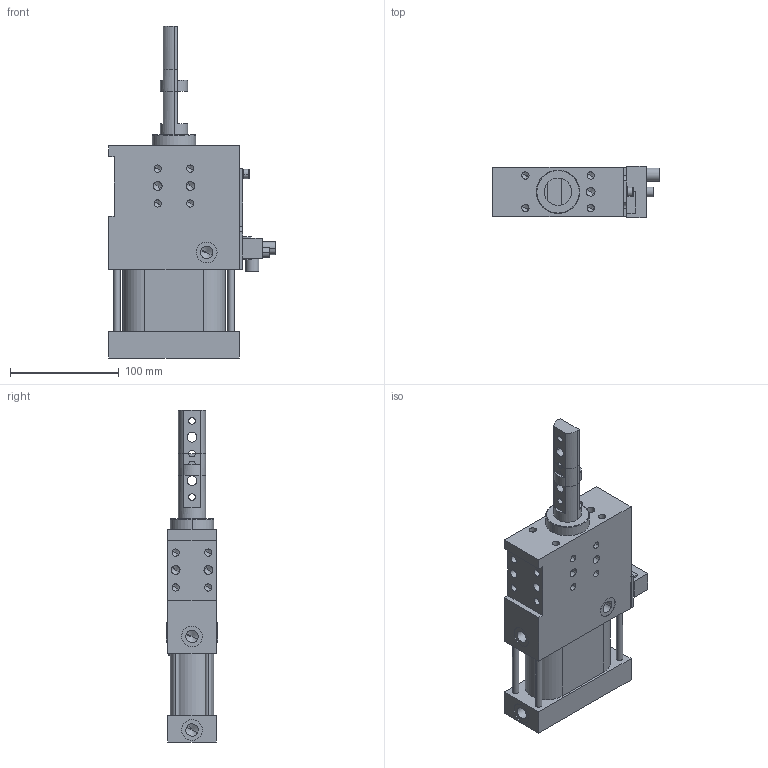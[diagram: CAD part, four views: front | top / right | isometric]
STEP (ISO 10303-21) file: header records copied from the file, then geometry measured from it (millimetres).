
FILE_DESCRIPTION(('CATIA V5 STEP Exchange'),'2;1');
FILE_NAME('G:\Konstruktion\Modelle\UPLOAD\SZK_63_BR3_A32_T12_TUENKERS.stp','2016-10-17T10:30:14+00:00',('none'),('none'),'CATIA Version 5 Release 19 SP 9 (IN-10)','CATIA V5 STEP AP214','none');
FILE_SCHEMA(('AUTOMOTIVE_DESIGN { 1 0 10303 214 1 1 1 1 }'));
Length unit declared in the file: millimetre
Products named in the file (1): SZK_63_BR3_A32_T12_TUENKERS
Bounding box: 153 x 47 x 305 mm (x, y, z)
Volume: 992029.1 mm3; surface area: 102742.7 mm2
Topology: 2 solids, 2 shells, 230 faces, 564 edges, 326 vertices
Faces by surface type: cylinder 98, plane 72, cone 56, torus 4
Entity records: 6416 total; most frequent: ORIENTED_EDGE 1024, CARTESIAN_POINT 993, DIRECTION 802, EDGE_CURVE 512, AXIS2_PLACEMENT_3D 365, VERTEX_POINT 326, VECTOR 290, EDGE_LOOP 290
